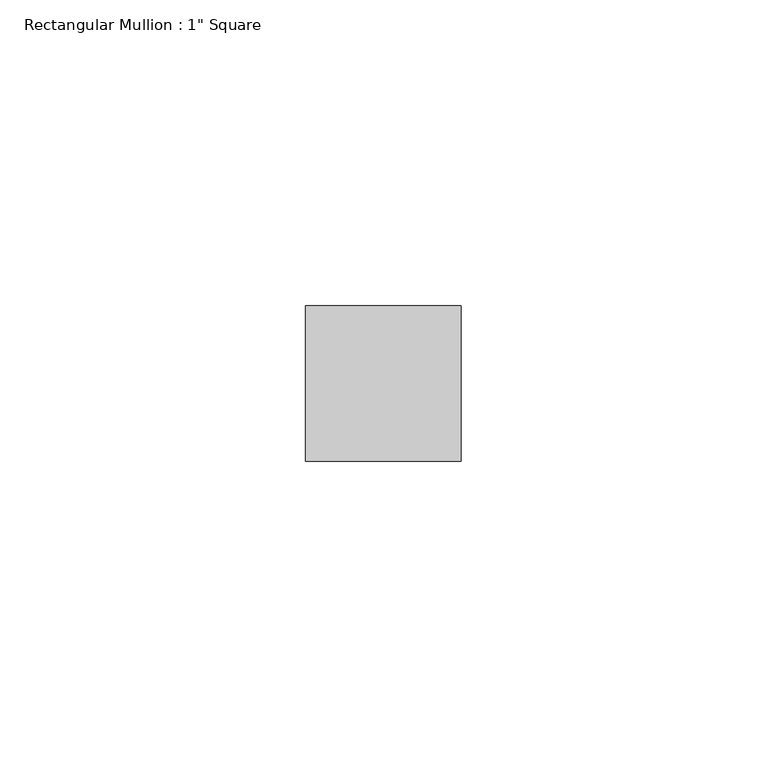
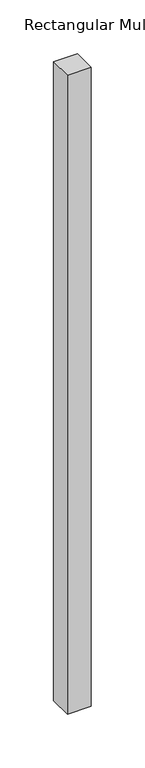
"""IFC4 building model written with IfcOpenShell, lengths in millimetres: member geometry."""

from ifc_helpers import new_model, si_unit, frame, origin, place, context, project, spatial, polyline, outline, extrude, source, transform, mapped, element, save


def member_48c588a9(model_context):
    return source(origin(), model_context, "Body", "SweptSolid", [
        extrude(outline(polyline([(0.0, -19.05), (0.0, -44.45), (-25.4, -44.45), (-25.4, -19.05), (0.0, -19.05)])), frame((0.0, 0.0, -723.9000002), z_axis=(0.0, 0.0, 1.0), x_axis=(1.0, 0.0, 0.0)), (0.0, 0.0, 1.0), 723.9000002),
    ])


if __name__ == "__main__":
    model = new_model("IFC4")
    model_context = context("Model", 3, world=origin())
    ifc_project = project(units=[si_unit("LENGTHUNIT", "METRE", prefix="MILLI")], contexts=[model_context])
    site = spatial("IfcSite", under=ifc_project)
    building = spatial("IfcBuilding", under=site)
    placement = place(None, origin())
    member_shape = member_48c588a9(model_context)
    element("IfcMember", 1, ObjectType="Rectangular Mullion : 1\" Square", at=placement, inside=building, context=model_context, shape_type="MappedRepresentation", body=[
        mapped(member_shape, transform((0.0, 0.0, 0.0), x_axis=(1.0, 0.0, 0.0), y_axis=(0.0, 1.0, 0.0), z_axis=(0.0, 0.0, 1.0))),
    ])
    save(model, "model.ifc")
